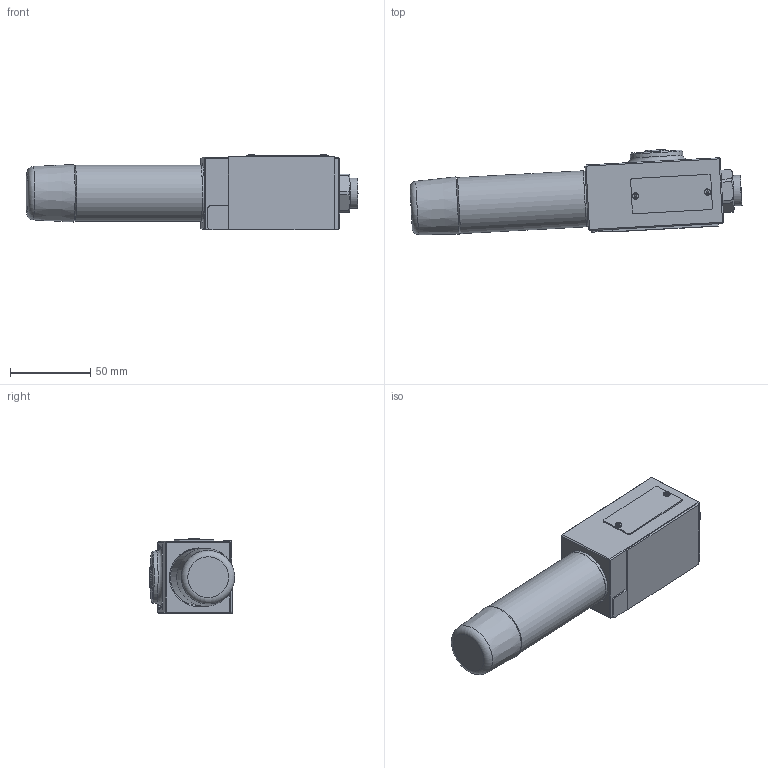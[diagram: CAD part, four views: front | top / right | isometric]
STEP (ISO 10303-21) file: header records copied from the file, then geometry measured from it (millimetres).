
FILE_DESCRIPTION(/* description */ (''),/* implementation_level */ '2;1');
FILE_NAME(/* name */ 'DR6DP...-5XJ YM.stp',/* time_stamp */ '2023-04-12T09:01:59+08:00',/* author */ (''),/* organization */ (''),/* preprocessor_version */ 'ST-DEVELOPER v16.7',/* originating_system */ 'SIEMENS PLM Software NX 12.0',/* authorisation */ '');
FILE_SCHEMA (('AUTOMOTIVE_DESIGN { 1 0 10303 214 3 1 1 1 }'));
Products named in the file (1): DR6DP...-5XJ YM
Bounding box: 207.08 x 53.07 x 47.05 mm (x, y, z)
Volume: 87329.1 mm3; surface area: 103291.6 mm2
Topology: 30 solids, 32 shells, 808 faces, 1990 edges, 1262 vertices
Faces by surface type: cylinder 269, plane 265, cone 127, torus 80, bspline 53, sphere 9, extrusion 5
Full cylindrical faces by diameter (mm): 0.8 x1, 1.5 x4, 1.8 x2, 1.9 x2, 2.5 x3, 3 x1, 3.3 x9, 4 x3, 4.2 x9, 4.4 x1, 5.5 x4, 6 x3, 7 x1, 7.5 x6, 8.3 x2, 9 x9, 9.2 x1, 9.4 x4, 9.5 x1, 10 x7, 10.5 x1, 10.8 x1, 11.5 x9, 12 x5, 12.1 x2, 12.2 x4, 12.3 x2, 13.8 x1, 14 x1, 14.5 x1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
Entity records: 62890 total; most frequent: CARTESIAN_POINT 46679, ORIENTED_EDGE 3070, DIRECTION 3044, EDGE_CURVE 1535, AXIS2_PLACEMENT_3D 1319, VERTEX_POINT 1097, EDGE_LOOP 1066, ADVANCED_FACE 767
